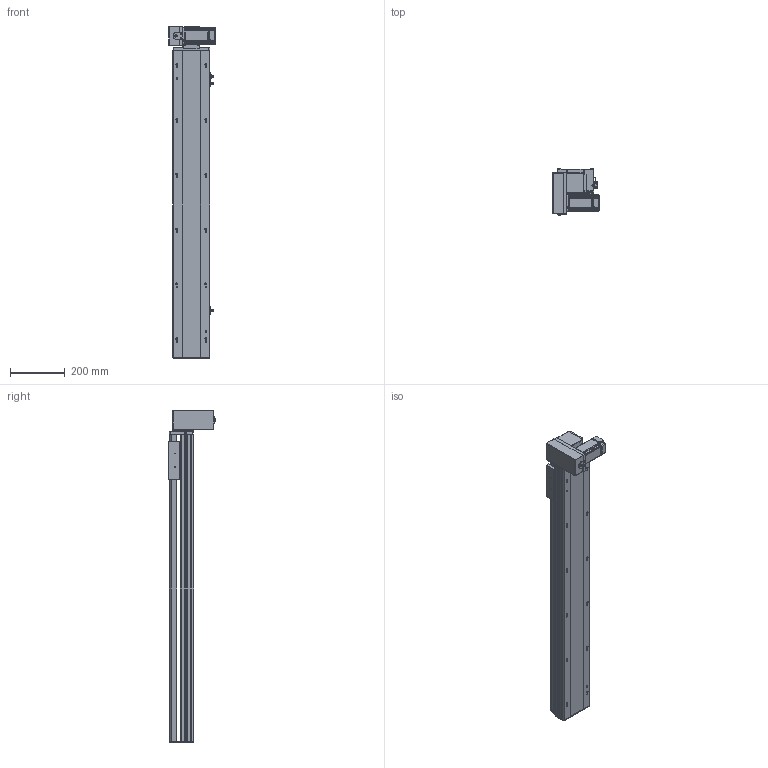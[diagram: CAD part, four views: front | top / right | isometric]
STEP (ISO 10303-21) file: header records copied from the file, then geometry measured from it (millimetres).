
FILE_DESCRIPTION (( 'STEP AP214' ), '1' );
FILE_NAME ('TPT14M-L40-850-LD-T40-C4.STEP', '2023-03-04T01:09:15', ( '' ), ( '' ), 'SwSTEP 2.0', 'SolidWorks 2020', '' );
FILE_SCHEMA (( 'AUTOMOTIVE_DESIGN' ));
Length unit declared in the file: millimetre
Products named in the file (9): 葩璃 TPT14-L-001 菁釱MZ-135-01^TPT14M-L40-LD-T40-C4; 葩璃 TPT14-L-005 賑釱MZ-135-07^TPT14M-L40-LD-T40-C4; 葩璃 TPT14-L-007 々湍釱MZ-169x88^TPT14M-L40-LD-T40-C4_YTB14M; TPT14M-L40-850-LD-T40-C4; 葩璃 侂狟400W^TPT14M-L40-LD-T40-C4; hexagon head bolts-full thread gb_GB_FASTENER_BOLT_STBAB A M5X16-N; 葩璃 TPT14-L-002 奻裔MZ-135-05^TPT14M-L40-LD-T40-C4; 葩璃 pm-t65-672^TPT14M-L40-LD-T40-C4; 葩璃 TPT14-L-009 萇儂啣^TPT14M-L40-LD-T40-C4_400W
Assembly tree (10 placements, depth 2):
  TPT14M-L40-850-LD-T40-C4
    葩璃 TPT14-L-001 菁釱MZ-135-01^TPT14M-L40-LD-T40-C4
    葩璃 TPT14-L-002 奻裔MZ-135-05^TPT14M-L40-LD-T40-C4
    葩璃 TPT14-L-005 賑釱MZ-135-07^TPT14M-L40-LD-T40-C4
    葩璃 TPT14-L-007 々湍釱MZ-169x88^TPT14M-L40-LD-T40-C4_YTB14M
    葩璃 TPT14-L-009 萇儂啣^TPT14M-L40-LD-T40-C4_400W
    葩璃 pm-t65-672^TPT14M-L40-LD-T40-C4  x3
    葩璃 侂狟400W^TPT14M-L40-LD-T40-C4
    hexagon head bolts-full thread gb_GB_FASTENER_BOLT_STBAB A M5X16-N
Bounding box: 170.5 x 173.45 x 1210.5 mm (x, y, z)
Volume: 7798364.7 mm3; surface area: 1182509.5 mm2
Topology: 18 solids, 18 shells, 1422 faces, 3729 edges, 2384 vertices
Faces by surface type: plane 766, cylinder 492, cone 138, bspline 26
Entity records: 38580 total; most frequent: CARTESIAN_POINT 7166, DIRECTION 6364, ORIENTED_EDGE 6026, EDGE_CURVE 3013, AXIS2_PLACEMENT_3D 2238, VERTEX_POINT 1960, LINE 1888, VECTOR 1888
